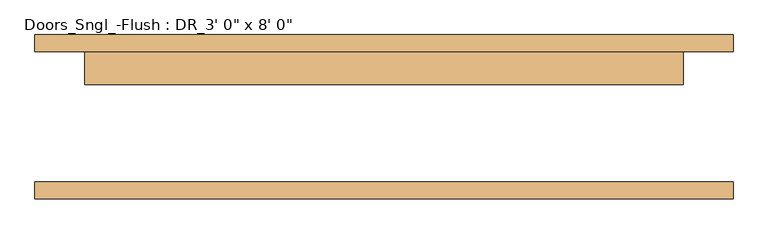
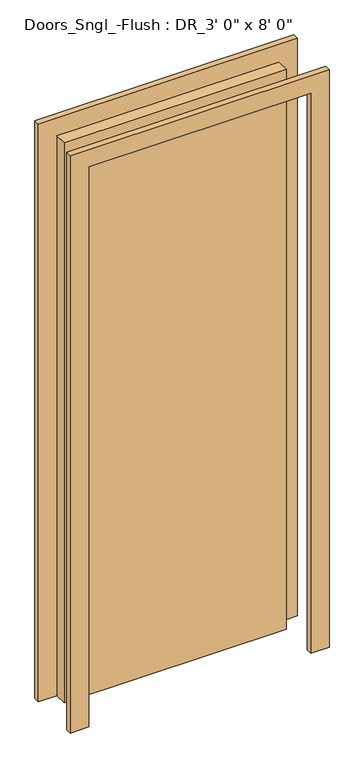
"""IFC4 building model written with IfcOpenShell, lengths in millimetres: door geometry."""

from ifc_helpers import new_model, si_unit, frame, origin, origin_with_axes, place, context, project, spatial, polyline, outline, extrude, source, transform, mapped, element, save


def door_1cd84a8f(model_context):
    return source(origin(), model_context, "Body", "SweptSolid", [
        extrude(outline(polyline([(2514.6, -533.4), (0.0, -533.4), (0.0, -457.2), (2438.4, -457.2), (2438.4, 457.2), (0.0, 457.2), (0.0, 533.4), (2514.6, 533.4), (2514.6, -533.4)])), frame((0.0, 100.0125, 0.0), z_axis=(0.0, 1.0, 0.0), x_axis=(0.0, 0.0, 1.0)), (0.0, 0.0, 1.0), 25.4),
        extrude(outline(polyline([(2514.6, 533.4), (2514.6, -533.4), (0.0, -533.4), (0.0, -457.2), (2438.4, -457.2), (2438.4, 457.2), (0.0, 457.2), (0.0, 533.4), (2514.6, 533.4)])), frame((0.0, -125.4125, 0.0), z_axis=(0.0, 1.0, 0.0), x_axis=(0.0, 0.0, 1.0)), (0.0, 0.0, 1.0), 25.4),
        extrude(outline(polyline([(457.2, 49.2125), (-457.2, 49.2125), (-457.2, 100.0125), (457.2, 100.0125), (457.2, 49.2125)])), origin_with_axes(), (0.0, 0.0, 1.0), 2438.4),
    ])


if __name__ == "__main__":
    model = new_model("IFC4")
    model_context = context("Model", 3, world=origin())
    ifc_project = project(units=[si_unit("LENGTHUNIT", "METRE", prefix="MILLI")], contexts=[model_context])
    site = spatial("IfcSite", under=ifc_project)
    building = spatial("IfcBuilding", under=site)
    placement = place(None, origin())
    door_shape = door_1cd84a8f(model_context)
    element("IfcDoor", 1, ObjectType="Doors_Sngl_-Flush : DR_3' 0\" x 8' 0\"", at=placement, inside=building, context=model_context, shape_type="MappedRepresentation", body=[
        mapped(door_shape, transform((0.0, 0.0, 0.0), x_axis=(1.0, 0.0, 0.0), y_axis=(0.0, 1.0, 0.0), z_axis=(0.0, 0.0, 1.0))),
    ])
    save(model, "model.ifc")
